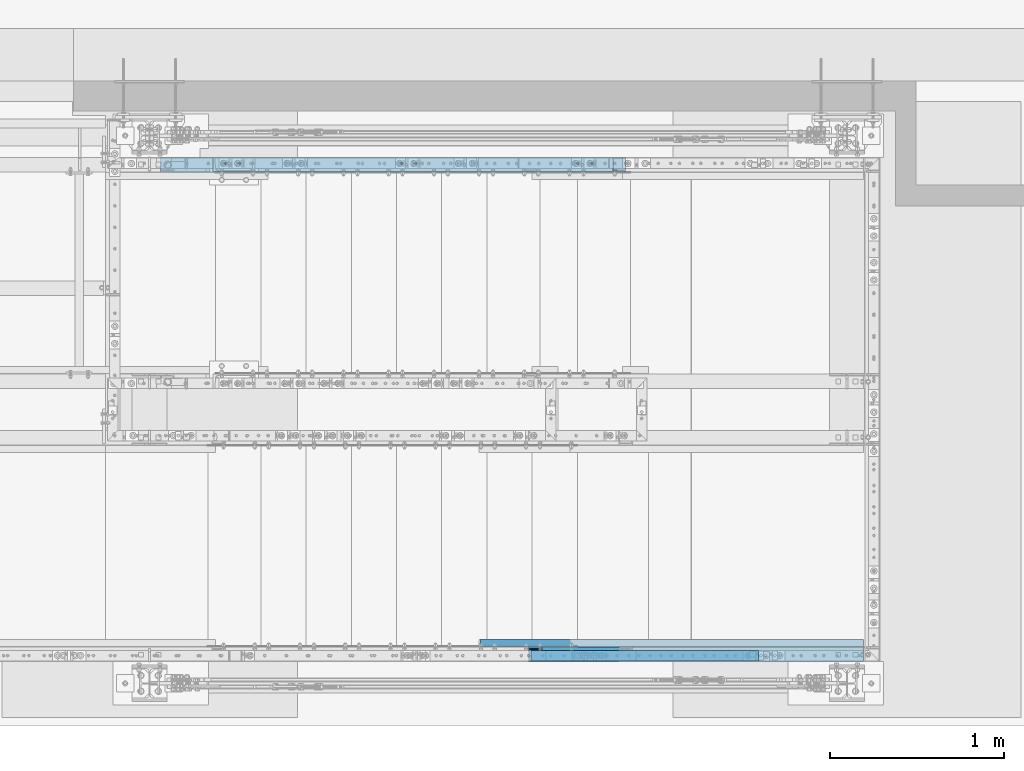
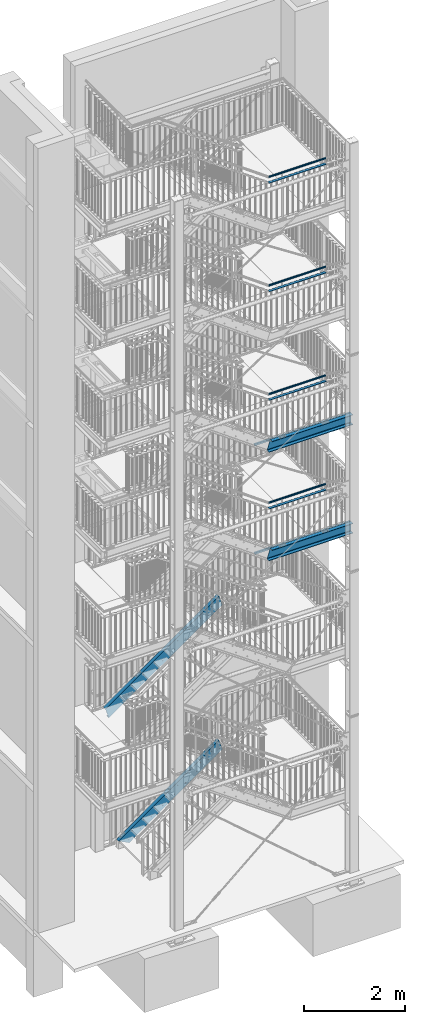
# One storey, part 129 of 831: 12 beams, 2 members, 57 openings.
"""IFC2X3 building model written with IfcOpenShell, lengths in millimetres."""

from ifc_helpers import new_model, entity, si_unit, converted_unit, frame, frame_2d, origin, origin_with_axes, origin_2d, origin_2d_with_axis, place, context, project, spatial, rectangle, circle, hollow_circle, l_section, u_section, extrude, clip, halfspace, material, element, save


model = new_model("IFC2X3")

# Units and contexts
model_context = context("Model", 3, precision=1e-09, world=origin_with_axes())
ifc_project = project(units=[si_unit("LENGTHUNIT", "METRE", prefix="MILLI"), si_unit("AREAUNIT", "SQUARE_METRE"), si_unit("VOLUMEUNIT", "CUBIC_METRE"), converted_unit("PLANEANGLEUNIT", "DEGREE", entity("IfcPlaneAngleMeasure", 0.01745329), si_unit("PLANEANGLEUNIT", "RADIAN"), dimensions=[0, 0, 0, 0, 0, 0, 0])], contexts=[model_context])

# Site, building, storey
site_placement = place(None, origin_with_axes())
site = spatial("IfcSite", under=ifc_project, at=site_placement, Name="Site", CompositionType="ELEMENT")
building_placement = place(site_placement, origin_with_axes())
building = spatial("IfcBuilding", under=site, at=building_placement, Name="Struktur 1", CompositionType="ELEMENT")
storey_placement = place(building_placement, origin_with_axes())
storey = spatial("IfcBuildingStorey", under=building, at=storey_placement, Name="Default Storey", CompositionType="ELEMENT", Elevation=0.0)

# Beams
ifc_material = material(Name="S235JR")
beam_1_placement = place(None, frame((8357.292260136, 4526.736971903, 9649.8), z_axis=(1.0, 0.0, 0.0), x_axis=(0.0, 0.0, -1.0)))
element("IfcBeam", 1, at=beam_1_placement, inside=storey, material=ifc_material, Name="Railing_Kneerail_Landing#1014", ObjectType="Railing_Kneerail_Landing#1014", context=model_context, shape_type="SweptSolid", body=[
    extrude(rectangle(XDim=10.0, YDim=60.0, at=origin_2d()), origin(), (0.0, 0.0, -1.0), 1307.440538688),
])
beam_2_placement = place(None, frame((8357.292260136, 4535.536971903, 9776.0), z_axis=(1.0, 0.0, 0.0), x_axis=(0.0, 0.0, -1.0)))
element("IfcBeam", 2, at=beam_2_placement, inside=storey, material=ifc_material, Name="Railing_Handrail_Landing#6", ObjectType="Railing_Handrail_Landing#6", context=model_context, shape_type="Clipping", body=[
    clip(extrude(hollow_circle(Radius=21.2, WallThickness=3.2, at=origin_2d()), origin(), (0.0, 0.0, -1.0), 1332.091479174), halfspace(frame((10916.418096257, -4535.536971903, -4833.831796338), z_axis=(0.307936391, 0.0, 0.951406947), x_axis=(0.0, 1.0, 0.0)), True)),
])
beam_3_placement = place(None, frame((8357.292260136, 4526.736971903, 12279.3000003), z_axis=(1.0, 0.0, 0.0), x_axis=(0.0, 0.0, -1.0)))
element("IfcBeam", 3, at=beam_3_placement, inside=storey, material=ifc_material, Name="Railing_Kneerail_Landing#1012", ObjectType="Railing_Kneerail_Landing#1012", context=model_context, shape_type="SweptSolid", body=[
    extrude(rectangle(XDim=10.0, YDim=60.0, at=origin_2d()), origin(), (0.0, 0.0, -1.0), 1307.429970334),
])
beam_4_placement = place(None, frame((8357.292260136, 4535.536971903, 12405.5000003), z_axis=(1.0, 0.0, 0.0), x_axis=(0.0, 0.0, -1.0)))
element("IfcBeam", 4, at=beam_4_placement, inside=storey, material=ifc_material, Name="Railing_Handrail_Landing#6", ObjectType="Railing_Handrail_Landing#6", context=model_context, shape_type="Clipping", body=[
    clip(extrude(hollow_circle(Radius=21.2, WallThickness=3.2, at=origin_2d()), origin(), (0.0, 0.0, -1.0), 1332.086879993), halfspace(frame((13297.273101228, -4535.536971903, -5597.800595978), z_axis=(0.307506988, 0.0, 0.951545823), x_axis=(0.0, 1.0, 0.0)), True)),
])
beam_5_placement = place(None, frame((8357.292260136, 4526.736971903, 14910.3000001), z_axis=(1.0, 0.0, 0.0), x_axis=(0.0, 0.0, -1.0)))
element("IfcBeam", 5, at=beam_5_placement, inside=storey, material=ifc_material, Name="Railing_Kneerail_Landing#1014", ObjectType="Railing_Kneerail_Landing#1014", context=model_context, shape_type="SweptSolid", body=[
    extrude(rectangle(XDim=10.0, YDim=60.0, at=origin_2d()), origin(), (0.0, 0.0, -1.0), 1307.446874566),
])
beam_6_placement = place(None, frame((8357.292260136, 4535.536971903, 15036.5000001), z_axis=(1.0, 0.0, 0.0), x_axis=(0.0, 0.0, -1.0)))
element("IfcBeam", 6, at=beam_6_placement, inside=storey, material=ifc_material, Name="Railing_Handrail_Landing#6", ObjectType="Railing_Handrail_Landing#6", context=model_context, shape_type="Clipping", body=[
    clip(extrude(hollow_circle(Radius=21.2, WallThickness=3.2, at=origin_2d()), origin(), (0.0, 0.0, -1.0), 1332.094239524), halfspace(frame((15677.254505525, -4535.536971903, -6379.42955571), z_axis=(0.308193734, 0.0, 0.951323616), x_axis=(0.0, 1.0, 0.0)), True)),
])
beam_7_placement = place(None, frame((8357.292260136, 4526.736971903, 17537.8000003), z_axis=(1.0, 0.0, 0.0), x_axis=(0.0, 0.0, -1.0)))
element("IfcBeam", 7, at=beam_7_placement, inside=storey, material=ifc_material, Name="Railing_Kneerail_Landing#1012", ObjectType="Railing_Kneerail_Landing#1012", context=model_context, shape_type="SweptSolid", body=[
    extrude(rectangle(XDim=10.0, YDim=60.0, at=origin_2d()), origin(), (0.0, 0.0, -1.0), 1307.415156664),
])
beam_8_placement = place(None, frame((8357.292260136, 4535.536971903, 17664.0000003), z_axis=(1.0, 0.0, 0.0), x_axis=(0.0, 0.0, -1.0)))
element("IfcBeam", 8, at=beam_8_placement, inside=storey, material=ifc_material, Name="Railing_Handrail_Landing#6", ObjectType="Railing_Handrail_Landing#6", context=model_context, shape_type="Clipping", body=[
    clip(extrude(hollow_circle(Radius=21.2, WallThickness=3.2, at=origin_2d()), origin(), (0.0, 0.0, -1.0), 1332.080444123), halfspace(frame((18061.439551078, -4535.536971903, -7124.795285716), z_axis=(0.306904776, 0.0, 0.951740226), x_axis=(0.0, 1.0, 0.0)), True)),
])

# Beam, openings
beam_9_placement = place(None, frame((9219.017173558, 4554.436971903, 8516.0), z_axis=(-1.0, 0.0, 0.0), x_axis=(0.0, -1.0, 0.0)))
beam_9 = element("IfcBeam", 9, at=beam_9_placement, inside=storey, material=ifc_material, Name="BottomLanding#2", ObjectType="BottomLanding#2", context=model_context, shape_type="Clipping", body=[
    clip(clip(extrude(u_section(Depth=240.0, FlangeWidth=85.0, WebThickness=9.5, FlangeThickness=13.0, FilletRadius=13.0, EdgeRadius=6.5, FlangeSlope=4.574, at=frame_2d((20.2, 0.0))), origin(), (0.0, 0.0, 1.0), 2366.919417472), halfspace(frame((4554.436971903, -8516.0, 257.304770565), z_axis=(0.0, 0.0, 1.0), x_axis=(1.0, 0.0, 0.0)), True)), halfspace(frame((4554.436971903, -9780.725399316, 5311.494172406), z_axis=(0.0, -0.307936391, -0.951406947), x_axis=(-1.0, 0.0, 0.0)), True)),
])
opening_1_placement = place(beam_9_placement, frame((27.7, 120.5, 1897.224056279), z_axis=(0.0, 1.0, 0.0), x_axis=(-1.0, 0.0, 0.0)))
element("IfcOpeningElement", 10, at=opening_1_placement, cuts=beam_9, ObjectType="Opening", context=model_context, shape_type="SweptSolid", body=[
    extrude(circle(Radius=7.001, at=frame_2d((0.0, 7.001), x_axis=(1.0, 0.0))), origin(), (0.0, 0.0, -1.0), 14.0),
])
opening_2_placement = place(beam_9_placement, frame((27.7, 120.5, 1797.224056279), z_axis=(0.0, 1.0, 0.0), x_axis=(-1.0, 0.0, 0.0)))
element("IfcOpeningElement", 11, at=opening_2_placement, cuts=beam_9, ObjectType="Opening", context=model_context, shape_type="SweptSolid", body=[
    extrude(circle(Radius=7.001, at=frame_2d((0.0, 7.001), x_axis=(1.0, 0.0))), origin(), (0.0, 0.0, -1.0), 14.0),
])
opening_3_placement = place(beam_9_placement, frame((27.7, 120.5, 912.223913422), z_axis=(0.0, 1.0, 0.0), x_axis=(-1.0, 0.0, 0.0)))
element("IfcOpeningElement", 12, at=opening_3_placement, cuts=beam_9, ObjectType="Opening", context=model_context, shape_type="SweptSolid", body=[
    extrude(circle(Radius=7.001, at=frame_2d((0.0, 7.001), x_axis=(1.0, 0.0))), origin(), (0.0, 0.0, -1.0), 14.0),
])
opening_4_placement = place(beam_9_placement, frame((27.7, 120.5, 812.223913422), z_axis=(0.0, 1.0, 0.0), x_axis=(-1.0, 0.0, 0.0)))
element("IfcOpeningElement", 13, at=opening_4_placement, cuts=beam_9, ObjectType="Opening", context=model_context, shape_type="SweptSolid", body=[
    extrude(circle(Radius=7.001, at=frame_2d((0.0, 7.001), x_axis=(1.0, 0.0))), origin(), (0.0, 0.0, -1.0), 14.0),
])
opening_5_placement = place(beam_9_placement, frame((29.701, -120.5, 302.303770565), z_axis=(0.0, -1.0, 0.0), x_axis=(1.0, 0.0, 0.0)))
element("IfcOpeningElement", 14, at=opening_5_placement, cuts=beam_9, ObjectType="Opening", context=model_context, shape_type="SweptSolid", body=[
    extrude(circle(Radius=7.001, at=frame_2d((-7.001, 0.0), x_axis=(1.0, 0.0))), origin(), (0.0, 0.0, -1.0), 14.0),
])
opening_6_placement = place(beam_9_placement, frame((29.701, -120.5, 402.303770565), z_axis=(0.0, -1.0, 0.0), x_axis=(1.0, 0.0, 0.0)))
element("IfcOpeningElement", 15, at=opening_6_placement, cuts=beam_9, ObjectType="Opening", context=model_context, shape_type="SweptSolid", body=[
    extrude(circle(Radius=7.001, at=frame_2d((-7.001, 0.0), x_axis=(1.0, 0.0))), origin(), (0.0, 0.0, -1.0), 14.0),
])

# Beam
beam_10_placement = place(None, frame((8961.713402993, 4590.936971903, 8624.8), z_axis=(1.0, 0.0, 0.0), x_axis=(0.0, 0.0, -1.0)))
element("IfcBeam", 16, at=beam_10_placement, inside=storey, material=ifc_material, Name="BottomLanding#3", ObjectType="BottomLanding#3", context=model_context, shape_type="SweptSolid", body=[
    extrude(l_section(Depth=40.0, Width=40.0, Thickness=4.0, FilletRadius=6.0, EdgeRadius=3.0, at=frame_2d((8.8, 8.8))), origin(), (0.0, 0.0, -1.0), 2203.956009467),
])

# Member, openings
member_1_placement = place(None, frame((4776.641171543, 7329.036971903, 3599.654006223), z_axis=(0.818063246, 0.0, 0.575128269), x_axis=(0.0, 1.0, 0.0)))
member_1 = element("IfcMember", 17, at=member_1_placement, inside=storey, material=ifc_material, Name="Stringer#1", ObjectType="Stringer#1", context=model_context, shape_type="Clipping", body=[
    clip(clip(extrude(u_section(Depth=240.0, FlangeWidth=85.0, WebThickness=9.5, FlangeThickness=13.0, FilletRadius=13.0, EdgeRadius=6.5, FlangeSlope=4.574, at=frame_2d((20.2, 0.0))), origin(), (0.0, 0.0, 1.0), 3697.004056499), halfspace(frame((-7329.036971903, -2876.228700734, 2489.789648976), z_axis=(0.0, 0.301609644, -0.953431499), x_axis=(-1.0, 0.0, 0.0)), True)), halfspace(frame((-7329.036971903, -1962.281935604, -399.327631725), z_axis=(0.0, -0.301609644, 0.953431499), x_axis=(1.0, 0.0, 0.0)), True)),
])
opening_7_placement = place(member_1_placement, frame((-22.8, 54.877031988, 2232.875726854), z_axis=(1.0, 0.0, 0.0), x_axis=(0.0, -0.575128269, 0.818063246)))
element("IfcOpeningElement", 18, at=opening_7_placement, cuts=member_1, ObjectType="Opening", context=model_context, shape_type="SweptSolid", body=[
    extrude(circle(Radius=7.001, at=origin_2d_with_axis()), origin(), (0.0, 0.0, 1.0), 10.5),
])
opening_8_placement = place(member_1_placement, frame((-22.8, -48.646056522, 2380.127111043), z_axis=(1.0, 0.0, 0.0), x_axis=(0.0, -0.575128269, 0.818063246)))
element("IfcOpeningElement", 19, at=opening_8_placement, cuts=member_1, ObjectType="Opening", context=model_context, shape_type="SweptSolid", body=[
    extrude(circle(Radius=7.001, at=origin_2d_with_axis()), origin(), (0.0, 0.0, 1.0), 10.5),
])
opening_9_placement = place(member_1_placement, frame((-22.8, 54.877031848, 643.756539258), z_axis=(1.0, 0.0, 0.0), x_axis=(0.0, -0.575128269, 0.818063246)))
element("IfcOpeningElement", 20, at=opening_9_placement, cuts=member_1, ObjectType="Opening", context=model_context, shape_type="SweptSolid", body=[
    extrude(circle(Radius=7.001, at=origin_2d_with_axis()), origin(), (0.0, 0.0, 1.0), 10.5),
])
opening_10_placement = place(member_1_placement, frame((-22.8, 54.87703196, 1915.051889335), z_axis=(1.0, 0.0, 0.0), x_axis=(0.0, -0.575128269, 0.818063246)))
element("IfcOpeningElement", 21, at=opening_10_placement, cuts=member_1, ObjectType="Opening", context=model_context, shape_type="SweptSolid", body=[
    extrude(circle(Radius=7.001, at=origin_2d_with_axis()), origin(), (0.0, 0.0, 1.0), 10.5),
])
opening_11_placement = place(member_1_placement, frame((-22.8, 54.877031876, 961.580376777), z_axis=(1.0, 0.0, 0.0), x_axis=(0.0, -0.575128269, 0.818063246)))
element("IfcOpeningElement", 22, at=opening_11_placement, cuts=member_1, ObjectType="Opening", context=model_context, shape_type="SweptSolid", body=[
    extrude(circle(Radius=7.001, at=origin_2d_with_axis()), origin(), (0.0, 0.0, 1.0), 10.5),
])
opening_12_placement = place(member_1_placement, frame((-22.8, -48.646056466, 3015.774786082), z_axis=(1.0, 0.0, 0.0), x_axis=(0.0, -0.575128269, 0.818063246)))
element("IfcOpeningElement", 23, at=opening_12_placement, cuts=member_1, ObjectType="Opening", context=model_context, shape_type="SweptSolid", body=[
    extrude(circle(Radius=7.001, at=origin_2d_with_axis()), origin(), (0.0, 0.0, 1.0), 10.5),
])
opening_13_placement = place(member_1_placement, frame((-22.8, -48.64605655, 2062.303273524), z_axis=(1.0, 0.0, 0.0), x_axis=(0.0, -0.575128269, 0.818063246)))
element("IfcOpeningElement", 24, at=opening_13_placement, cuts=member_1, ObjectType="Opening", context=model_context, shape_type="SweptSolid", body=[
    extrude(circle(Radius=7.001, at=origin_2d_with_axis()), origin(), (0.0, 0.0, 1.0), 10.5),
])
opening_14_placement = place(member_1_placement, frame((-22.8, 54.877032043, 2868.523401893), z_axis=(1.0, 0.0, 0.0), x_axis=(0.0, -0.575128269, 0.818063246)))
element("IfcOpeningElement", 25, at=opening_14_placement, cuts=member_1, ObjectType="Opening", context=model_context, shape_type="SweptSolid", body=[
    extrude(circle(Radius=7.001, at=origin_2d_with_axis()), origin(), (0.0, 0.0, 1.0), 10.5),
])
opening_15_placement = place(member_1_placement, frame((-22.8, -48.646056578, 1744.479436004), z_axis=(1.0, 0.0, 0.0), x_axis=(0.0, -0.575128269, 0.818063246)))
element("IfcOpeningElement", 26, at=opening_15_placement, cuts=member_1, ObjectType="Opening", context=model_context, shape_type="SweptSolid", body=[
    extrude(circle(Radius=7.001, at=origin_2d_with_axis()), origin(), (0.0, 0.0, 1.0), 10.5),
])
opening_16_placement = place(member_1_placement, frame((-22.8, -48.646056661, 791.007923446), z_axis=(1.0, 0.0, 0.0), x_axis=(0.0, -0.575128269, 0.818063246)))
element("IfcOpeningElement", 27, at=opening_16_placement, cuts=member_1, ObjectType="Opening", context=model_context, shape_type="SweptSolid", body=[
    extrude(circle(Radius=7.001, at=origin_2d_with_axis()), origin(), (0.0, 0.0, 1.0), 10.5),
])
opening_17_placement = place(member_1_placement, frame((-22.8, -48.646056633, 1108.831760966), z_axis=(1.0, 0.0, 0.0), x_axis=(0.0, -0.575128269, 0.818063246)))
element("IfcOpeningElement", 28, at=opening_17_placement, cuts=member_1, ObjectType="Opening", context=model_context, shape_type="SweptSolid", body=[
    extrude(circle(Radius=7.001, at=origin_2d_with_axis()), origin(), (0.0, 0.0, 1.0), 10.5),
])
opening_18_placement = place(member_1_placement, frame((-22.8, 54.877031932, 1597.228051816), z_axis=(1.0, 0.0, 0.0), x_axis=(0.0, -0.575128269, 0.818063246)))
element("IfcOpeningElement", 29, at=opening_18_placement, cuts=member_1, ObjectType="Opening", context=model_context, shape_type="SweptSolid", body=[
    extrude(circle(Radius=7.001, at=origin_2d_with_axis()), origin(), (0.0, 0.0, 1.0), 10.5),
])
opening_19_placement = place(member_1_placement, frame((-22.8, -48.646056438, 3333.598623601), z_axis=(1.0, 0.0, 0.0), x_axis=(0.0, -0.575128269, 0.818063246)))
element("IfcOpeningElement", 30, at=opening_19_placement, cuts=member_1, ObjectType="Opening", context=model_context, shape_type="SweptSolid", body=[
    extrude(circle(Radius=7.001, at=origin_2d_with_axis()), origin(), (0.0, 0.0, 1.0), 10.5),
])
opening_20_placement = place(member_1_placement, frame((-22.8, -48.646056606, 1426.655598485), z_axis=(1.0, 0.0, 0.0), x_axis=(0.0, -0.575128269, 0.818063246)))
element("IfcOpeningElement", 31, at=opening_20_placement, cuts=member_1, ObjectType="Opening", context=model_context, shape_type="SweptSolid", body=[
    extrude(circle(Radius=7.001, at=origin_2d_with_axis()), origin(), (0.0, 0.0, 1.0), 10.5),
])
opening_21_placement = place(member_1_placement, frame((-22.8, 54.877032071, 3186.347239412), z_axis=(1.0, 0.0, 0.0), x_axis=(0.0, -0.575128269, 0.818063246)))
element("IfcOpeningElement", 32, at=opening_21_placement, cuts=member_1, ObjectType="Opening", context=model_context, shape_type="SweptSolid", body=[
    extrude(circle(Radius=7.001, at=origin_2d_with_axis()), origin(), (0.0, 0.0, 1.0), 10.5),
])
opening_22_placement = place(member_1_placement, frame((-22.8, -48.646056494, 2697.950948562), z_axis=(1.0, 0.0, 0.0), x_axis=(0.0, -0.575128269, 0.818063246)))
element("IfcOpeningElement", 33, at=opening_22_placement, cuts=member_1, ObjectType="Opening", context=model_context, shape_type="SweptSolid", body=[
    extrude(circle(Radius=7.001, at=origin_2d_with_axis()), origin(), (0.0, 0.0, 1.0), 10.5),
])
opening_23_placement = place(member_1_placement, frame((-22.8, 54.877032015, 2550.699564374), z_axis=(1.0, 0.0, 0.0), x_axis=(0.0, -0.575128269, 0.818063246)))
element("IfcOpeningElement", 34, at=opening_23_placement, cuts=member_1, ObjectType="Opening", context=model_context, shape_type="SweptSolid", body=[
    extrude(circle(Radius=7.001, at=origin_2d_with_axis()), origin(), (0.0, 0.0, 1.0), 10.5),
])
opening_24_placement = place(member_1_placement, frame((-22.8, 54.877031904, 1279.404214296), z_axis=(1.0, 0.0, 0.0), x_axis=(0.0, -0.575128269, 0.818063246)))
element("IfcOpeningElement", 35, at=opening_24_placement, cuts=member_1, ObjectType="Opening", context=model_context, shape_type="SweptSolid", body=[
    extrude(circle(Radius=7.001, at=origin_2d_with_axis()), origin(), (0.0, 0.0, 1.0), 10.5),
])
opening_25_placement = place(member_1_placement, frame((27.7, 120.5, 1253.981677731), z_axis=(0.0, 1.0, 0.0), x_axis=(-1.0, 0.0, 0.0)))
element("IfcOpeningElement", 36, at=opening_25_placement, cuts=member_1, ObjectType="Opening", context=model_context, shape_type="SweptSolid", body=[
    extrude(circle(Radius=7.001, at=frame_2d((0.0, 7.001), x_axis=(1.0, 0.0))), origin(), (0.0, 0.0, -1.0), 14.0),
])
opening_26_placement = place(member_1_placement, frame((27.7, 120.5, 1153.981677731), z_axis=(0.0, 1.0, 0.0), x_axis=(-1.0, 0.0, 0.0)))
element("IfcOpeningElement", 37, at=opening_26_placement, cuts=member_1, ObjectType="Opening", context=model_context, shape_type="SweptSolid", body=[
    extrude(circle(Radius=7.001, at=frame_2d((0.0, 7.001), x_axis=(1.0, 0.0))), origin(), (0.0, 0.0, -1.0), 14.0),
])
opening_27_placement = place(member_1_placement, frame((27.7, 120.500000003, 2458.045236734), z_axis=(0.0, 1.0, 0.0), x_axis=(-1.0, 0.0, 0.0)))
element("IfcOpeningElement", 38, at=opening_27_placement, cuts=member_1, ObjectType="Opening", context=model_context, shape_type="SweptSolid", body=[
    extrude(circle(Radius=7.001, at=frame_2d((0.0, 7.001), x_axis=(1.0, 0.0))), origin(), (0.0, 0.0, -1.0), 14.000000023),
])
opening_28_placement = place(member_1_placement, frame((27.7, 120.500000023, 2358.045236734), z_axis=(0.0, 1.0, 0.0), x_axis=(-1.0, 0.0, 0.0)))
element("IfcOpeningElement", 39, at=opening_28_placement, cuts=member_1, ObjectType="Opening", context=model_context, shape_type="SweptSolid", body=[
    extrude(circle(Radius=7.001, at=frame_2d((0.0, 7.001), x_axis=(1.0, 0.0))), origin(), (0.0, 0.0, -1.0), 14.000000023),
])

member_2_placement = place(None, frame((5064.64560131, 7329.036971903, 285.297508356), z_axis=(0.814635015, 0.0, 0.579973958), x_axis=(0.0, 1.0, 0.0)))
member_2 = element("IfcMember", 40, at=member_2_placement, inside=storey, material=ifc_material, Name="Stringer#1", ObjectType="Stringer#1", context=model_context, shape_type="Clipping", body=[
    clip(clip(extrude(u_section(Depth=240.0, FlangeWidth=85.0, WebThickness=9.5, FlangeThickness=13.0, FilletRadius=13.0, EdgeRadius=6.5, FlangeSlope=4.574, at=frame_2d((20.2, 0.0))), origin(), (0.0, 0.0, 1.0), 3359.765077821), halfspace(frame((-7329.036971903, 321.948595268, 3164.680907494), z_axis=(0.0, 0.304437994, -0.952532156), x_axis=(-1.0, 0.0, 0.0)), True)), halfspace(frame((-7329.036971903, 4023.331766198, -1734.317054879), z_axis=(0.0, 0.458271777, 0.888812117), x_axis=(1.0, 0.0, 0.0)), True)),
])
opening_29_placement = place(member_2_placement, frame((-22.8, 54.89598563, 2527.396937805), z_axis=(1.0, 0.0, 0.0), x_axis=(0.0, -0.579973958, 0.814635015)))
element("IfcOpeningElement", 41, at=opening_29_placement, cuts=member_2, ObjectType="Opening", context=model_context, shape_type="SweptSolid", body=[
    extrude(circle(Radius=7.001, at=origin_2d_with_axis()), origin(), (0.0, 0.0, 1.0), 10.5),
])
opening_30_placement = place(member_2_placement, frame((-22.8, -49.49932673, 1397.385896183), z_axis=(1.0, 0.0, 0.0), x_axis=(0.0, -0.579973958, 0.814635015)))
element("IfcOpeningElement", 42, at=opening_30_placement, cuts=member_2, ObjectType="Opening", context=model_context, shape_type="SweptSolid", body=[
    extrude(circle(Radius=7.001, at=origin_2d_with_axis()), origin(), (0.0, 0.0, 1.0), 10.5),
])
opening_31_placement = place(member_2_placement, frame((-22.8, -49.49932673, 1716.547232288), z_axis=(1.0, 0.0, 0.0), x_axis=(0.0, -0.579973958, 0.814635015)))
element("IfcOpeningElement", 43, at=opening_31_placement, cuts=member_2, ObjectType="Opening", context=model_context, shape_type="SweptSolid", body=[
    extrude(circle(Radius=7.001, at=origin_2d_with_axis()), origin(), (0.0, 0.0, 1.0), 10.5),
])
opening_32_placement = place(member_2_placement, frame((-22.8, 54.89598563, 1889.074265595), z_axis=(1.0, 0.0, 0.0), x_axis=(0.0, -0.579973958, 0.814635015)))
element("IfcOpeningElement", 44, at=opening_32_placement, cuts=member_2, ObjectType="Opening", context=model_context, shape_type="SweptSolid", body=[
    extrude(circle(Radius=7.001, at=origin_2d_with_axis()), origin(), (0.0, 0.0, 1.0), 10.5),
])
opening_33_placement = place(member_2_placement, frame((-22.8, -49.49932673, 759.063223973), z_axis=(1.0, 0.0, 0.0), x_axis=(0.0, -0.579973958, 0.814635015)))
element("IfcOpeningElement", 45, at=opening_33_placement, cuts=member_2, ObjectType="Opening", context=model_context, shape_type="SweptSolid", body=[
    extrude(circle(Radius=7.001, at=origin_2d_with_axis()), origin(), (0.0, 0.0, 1.0), 10.5),
])
opening_34_placement = place(member_2_placement, frame((-22.8, -49.49932673, 2354.869904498), z_axis=(1.0, 0.0, 0.0), x_axis=(0.0, -0.579973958, 0.814635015)))
element("IfcOpeningElement", 46, at=opening_34_placement, cuts=member_2, ObjectType="Opening", context=model_context, shape_type="SweptSolid", body=[
    extrude(circle(Radius=7.001, at=origin_2d_with_axis()), origin(), (0.0, 0.0, 1.0), 10.5),
])
opening_35_placement = place(member_2_placement, frame((-22.8, 54.89598563, 931.59025728), z_axis=(1.0, 0.0, 0.0), x_axis=(0.0, -0.579973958, 0.814635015)))
element("IfcOpeningElement", 47, at=opening_35_placement, cuts=member_2, ObjectType="Opening", context=model_context, shape_type="SweptSolid", body=[
    extrude(circle(Radius=7.001, at=origin_2d_with_axis()), origin(), (0.0, 0.0, 1.0), 10.5),
])
opening_36_placement = place(member_2_placement, frame((-22.8, 54.89598563, 1250.751593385), z_axis=(1.0, 0.0, 0.0), x_axis=(0.0, -0.579973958, 0.814635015)))
element("IfcOpeningElement", 48, at=opening_36_placement, cuts=member_2, ObjectType="Opening", context=model_context, shape_type="SweptSolid", body=[
    extrude(circle(Radius=7.001, at=origin_2d_with_axis()), origin(), (0.0, 0.0, 1.0), 10.5),
])
opening_37_placement = place(member_2_placement, frame((-22.8, -49.49932673, 1078.224560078), z_axis=(1.0, 0.0, 0.0), x_axis=(0.0, -0.579973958, 0.814635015)))
element("IfcOpeningElement", 49, at=opening_37_placement, cuts=member_2, ObjectType="Opening", context=model_context, shape_type="SweptSolid", body=[
    extrude(circle(Radius=7.001, at=origin_2d_with_axis()), origin(), (0.0, 0.0, 1.0), 10.5),
])
opening_38_placement = place(member_2_placement, frame((-22.8, -49.49932673, 2035.708568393), z_axis=(1.0, 0.0, 0.0), x_axis=(0.0, -0.579973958, 0.814635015)))
element("IfcOpeningElement", 50, at=opening_38_placement, cuts=member_2, ObjectType="Opening", context=model_context, shape_type="SweptSolid", body=[
    extrude(circle(Radius=7.001, at=origin_2d_with_axis()), origin(), (0.0, 0.0, 1.0), 10.5),
])
opening_39_placement = place(member_2_placement, frame((-22.8, -49.49932673, 2993.192576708), z_axis=(1.0, 0.0, 0.0), x_axis=(0.0, -0.579973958, 0.814635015)))
element("IfcOpeningElement", 51, at=opening_39_placement, cuts=member_2, ObjectType="Opening", context=model_context, shape_type="SweptSolid", body=[
    extrude(circle(Radius=7.001, at=origin_2d_with_axis()), origin(), (0.0, 0.0, 1.0), 10.5),
])
opening_40_placement = place(member_2_placement, frame((-22.8, 54.89598563, 1569.91292949), z_axis=(1.0, 0.0, 0.0), x_axis=(0.0, -0.579973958, 0.814635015)))
element("IfcOpeningElement", 52, at=opening_40_placement, cuts=member_2, ObjectType="Opening", context=model_context, shape_type="SweptSolid", body=[
    extrude(circle(Radius=7.001, at=origin_2d_with_axis()), origin(), (0.0, 0.0, 1.0), 10.5),
])
opening_41_placement = place(member_2_placement, frame((-22.8, -49.49932673, 2674.031240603), z_axis=(1.0, 0.0, 0.0), x_axis=(0.0, -0.579973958, 0.814635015)))
element("IfcOpeningElement", 53, at=opening_41_placement, cuts=member_2, ObjectType="Opening", context=model_context, shape_type="SweptSolid", body=[
    extrude(circle(Radius=7.001, at=origin_2d_with_axis()), origin(), (0.0, 0.0, 1.0), 10.5),
])
opening_42_placement = place(member_2_placement, frame((-22.8, 54.89598563, 612.428921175), z_axis=(1.0, 0.0, 0.0), x_axis=(0.0, -0.579973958, 0.814635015)))
element("IfcOpeningElement", 54, at=opening_42_placement, cuts=member_2, ObjectType="Opening", context=model_context, shape_type="SweptSolid", body=[
    extrude(circle(Radius=7.001, at=origin_2d_with_axis()), origin(), (0.0, 0.0, 1.0), 10.5),
])
opening_43_placement = place(member_2_placement, frame((-22.8, 54.89598563, 2208.2356017), z_axis=(1.0, 0.0, 0.0), x_axis=(0.0, -0.579973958, 0.814635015)))
element("IfcOpeningElement", 55, at=opening_43_placement, cuts=member_2, ObjectType="Opening", context=model_context, shape_type="SweptSolid", body=[
    extrude(circle(Radius=7.001, at=origin_2d_with_axis()), origin(), (0.0, 0.0, 1.0), 10.5),
])
opening_44_placement = place(member_2_placement, frame((-22.8, -49.49932673, 439.901887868), z_axis=(1.0, 0.0, 0.0), x_axis=(0.0, -0.579973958, 0.814635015)))
element("IfcOpeningElement", 56, at=opening_44_placement, cuts=member_2, ObjectType="Opening", context=model_context, shape_type="SweptSolid", body=[
    extrude(circle(Radius=7.001, at=origin_2d_with_axis()), origin(), (0.0, 0.0, 1.0), 10.5),
])
opening_45_placement = place(member_2_placement, frame((-22.8, 54.89598563, 2846.55827391), z_axis=(1.0, 0.0, 0.0), x_axis=(0.0, -0.579973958, 0.814635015)))
element("IfcOpeningElement", 57, at=opening_45_placement, cuts=member_2, ObjectType="Opening", context=model_context, shape_type="SweptSolid", body=[
    extrude(circle(Radius=7.001, at=origin_2d_with_axis()), origin(), (0.0, 0.0, 1.0), 10.5),
])
opening_46_placement = place(member_2_placement, frame((27.7, 120.5, 458.115016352), z_axis=(0.0, 1.0, 0.0), x_axis=(-1.0, 0.0, 0.0)))
element("IfcOpeningElement", 58, at=opening_46_placement, cuts=member_2, ObjectType="Opening", context=model_context, shape_type="SweptSolid", body=[
    extrude(circle(Radius=7.001, at=frame_2d((0.0, 7.001), x_axis=(1.0, 0.0))), origin(), (0.0, 0.0, -1.0), 14.0),
])
opening_47_placement = place(member_2_placement, frame((27.7, 120.5, 358.115016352), z_axis=(0.0, 1.0, 0.0), x_axis=(-1.0, 0.0, 0.0)))
element("IfcOpeningElement", 59, at=opening_47_placement, cuts=member_2, ObjectType="Opening", context=model_context, shape_type="SweptSolid", body=[
    extrude(circle(Radius=7.001, at=frame_2d((0.0, 7.001), x_axis=(1.0, 0.0))), origin(), (0.0, 0.0, -1.0), 14.0),
])
opening_48_placement = place(member_2_placement, frame((27.7, 120.5, 1701.711348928), z_axis=(0.0, 1.0, 0.0), x_axis=(-1.0, 0.0, 0.0)))
element("IfcOpeningElement", 60, at=opening_48_placement, cuts=member_2, ObjectType="Opening", context=model_context, shape_type="SweptSolid", body=[
    extrude(circle(Radius=7.001, at=frame_2d((0.0, 7.001), x_axis=(1.0, 0.0))), origin(), (0.0, 0.0, -1.0), 14.0),
])
opening_49_placement = place(member_2_placement, frame((27.7, 120.5, 1601.711348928), z_axis=(0.0, 1.0, 0.0), x_axis=(-1.0, 0.0, 0.0)))
element("IfcOpeningElement", 61, at=opening_49_placement, cuts=member_2, ObjectType="Opening", context=model_context, shape_type="SweptSolid", body=[
    extrude(circle(Radius=7.001, at=frame_2d((0.0, 7.001), x_axis=(1.0, 0.0))), origin(), (0.0, 0.0, -1.0), 14.0),
])
opening_50_placement = place(member_2_placement, frame((27.7, 120.5, 2945.307681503), z_axis=(0.0, 1.0, 0.0), x_axis=(-1.0, 0.0, 0.0)))
element("IfcOpeningElement", 62, at=opening_50_placement, cuts=member_2, ObjectType="Opening", context=model_context, shape_type="SweptSolid", body=[
    extrude(circle(Radius=7.001, at=frame_2d((0.0, 7.001), x_axis=(1.0, 0.0))), origin(), (0.0, 0.0, -1.0), 14.0),
])
opening_51_placement = place(member_2_placement, frame((27.7, 120.5, 2845.307681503), z_axis=(0.0, 1.0, 0.0), x_axis=(-1.0, 0.0, 0.0)))
element("IfcOpeningElement", 63, at=opening_51_placement, cuts=member_2, ObjectType="Opening", context=model_context, shape_type="SweptSolid", body=[
    extrude(circle(Radius=7.001, at=frame_2d((0.0, 7.001), x_axis=(1.0, 0.0))), origin(), (0.0, 0.0, -1.0), 14.0),
])

# Beam, openings
beam_11_placement = place(None, frame((9219.017173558, 4554.436971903, 11145.5000003), z_axis=(-1.0, 0.0, 0.0), x_axis=(0.0, -1.0, 0.0)))
beam_11 = element("IfcBeam", 64, at=beam_11_placement, inside=storey, material=ifc_material, Name="BottomLanding#2", ObjectType="BottomLanding#2", context=model_context, shape_type="Clipping", body=[
    clip(clip(extrude(u_section(Depth=240.0, FlangeWidth=85.0, WebThickness=9.5, FlangeThickness=13.0, FilletRadius=13.0, EdgeRadius=6.5, FlangeSlope=4.574, at=frame_2d((20.2, 0.0))), origin(), (0.0, 0.0, 1.0), 2366.776191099), halfspace(frame((4554.436971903, -11145.5000003, 257.304770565), z_axis=(0.0, 0.0, 1.0), x_axis=(1.0, 0.0, 0.0)), True)), halfspace(frame((4554.436971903, -12161.289703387, 6075.770068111), z_axis=(0.0, -0.307506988, -0.951545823), x_axis=(-1.0, 0.0, 0.0)), True)),
])
opening_52_placement = place(beam_11_placement, frame((27.7, 120.5, 1897.224056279), z_axis=(0.0, 1.0, 0.0), x_axis=(-1.0, 0.0, 0.0)))
element("IfcOpeningElement", 65, at=opening_52_placement, cuts=beam_11, ObjectType="Opening", context=model_context, shape_type="SweptSolid", body=[
    extrude(circle(Radius=7.001, at=frame_2d((0.0, 7.001), x_axis=(1.0, 0.0))), origin(), (0.0, 0.0, -1.0), 14.0),
])
opening_53_placement = place(beam_11_placement, frame((27.7, 120.5, 1797.224056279), z_axis=(0.0, 1.0, 0.0), x_axis=(-1.0, 0.0, 0.0)))
element("IfcOpeningElement", 66, at=opening_53_placement, cuts=beam_11, ObjectType="Opening", context=model_context, shape_type="SweptSolid", body=[
    extrude(circle(Radius=7.001, at=frame_2d((0.0, 7.001), x_axis=(1.0, 0.0))), origin(), (0.0, 0.0, -1.0), 14.0),
])
opening_54_placement = place(beam_11_placement, frame((27.7, 120.5, 912.223913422), z_axis=(0.0, 1.0, 0.0), x_axis=(-1.0, 0.0, 0.0)))
element("IfcOpeningElement", 67, at=opening_54_placement, cuts=beam_11, ObjectType="Opening", context=model_context, shape_type="SweptSolid", body=[
    extrude(circle(Radius=7.001, at=frame_2d((0.0, 7.001), x_axis=(1.0, 0.0))), origin(), (0.0, 0.0, -1.0), 14.0),
])
opening_55_placement = place(beam_11_placement, frame((27.7, 120.5, 812.223913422), z_axis=(0.0, 1.0, 0.0), x_axis=(-1.0, 0.0, 0.0)))
element("IfcOpeningElement", 68, at=opening_55_placement, cuts=beam_11, ObjectType="Opening", context=model_context, shape_type="SweptSolid", body=[
    extrude(circle(Radius=7.001, at=frame_2d((0.0, 7.001), x_axis=(1.0, 0.0))), origin(), (0.0, 0.0, -1.0), 14.0),
])
opening_56_placement = place(beam_11_placement, frame((29.701, -120.5, 402.303770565), z_axis=(0.0, -1.0, 0.0), x_axis=(1.0, 0.0, 0.0)))
element("IfcOpeningElement", 69, at=opening_56_placement, cuts=beam_11, ObjectType="Opening", context=model_context, shape_type="SweptSolid", body=[
    extrude(circle(Radius=7.001, at=frame_2d((-7.001, 0.0), x_axis=(1.0, 0.0))), origin(), (0.0, 0.0, -1.0), 14.0),
])
opening_57_placement = place(beam_11_placement, frame((29.701, -120.5, 302.303770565), z_axis=(0.0, -1.0, 0.0), x_axis=(1.0, 0.0, 0.0)))
element("IfcOpeningElement", 70, at=opening_57_placement, cuts=beam_11, ObjectType="Opening", context=model_context, shape_type="SweptSolid", body=[
    extrude(circle(Radius=7.001, at=frame_2d((-7.001, 0.0), x_axis=(1.0, 0.0))), origin(), (0.0, 0.0, -1.0), 14.0),
])

# Beam
beam_12_placement = place(None, frame((8961.713402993, 4590.936971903, 11254.3000003), z_axis=(1.0, 0.0, 0.0), x_axis=(0.0, 0.0, -1.0)))
element("IfcBeam", 71, at=beam_12_placement, inside=storey, material=ifc_material, Name="BottomLanding#3", ObjectType="BottomLanding#3", context=model_context, shape_type="SweptSolid", body=[
    extrude(l_section(Depth=40.0, Width=40.0, Thickness=4.0, FilletRadius=6.0, EdgeRadius=3.0, at=frame_2d((8.8, 8.8))), origin(), (0.0, 0.0, -1.0), 2204.257526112),
])

save(model, "model.ifc")
